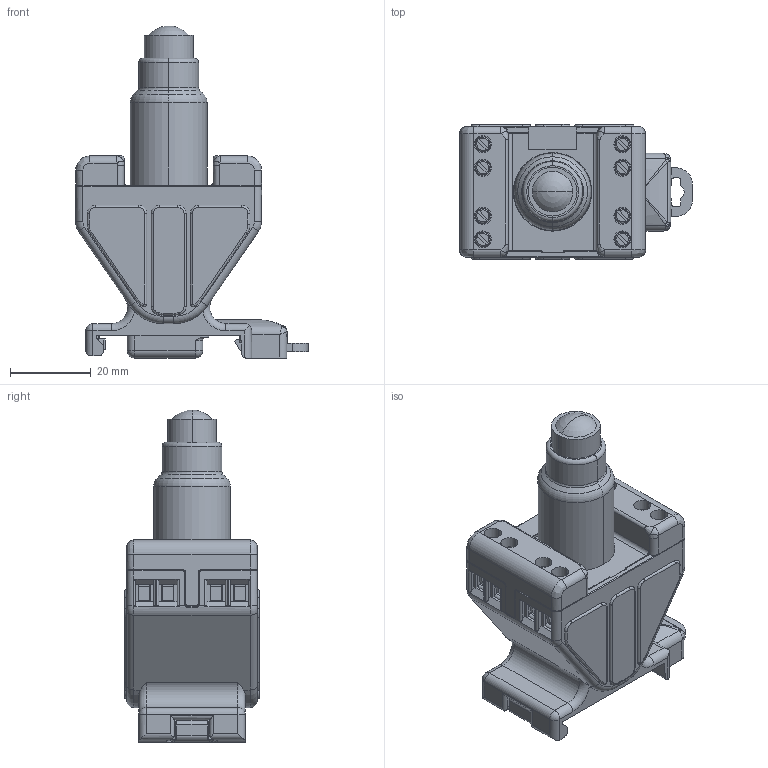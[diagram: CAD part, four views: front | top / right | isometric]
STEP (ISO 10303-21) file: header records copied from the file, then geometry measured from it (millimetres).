
FILE_DESCRIPTION((''),'2;1');
FILE_NAME('LEUCHTTASTER_STEP_SW0001','2009-01-19T',('beil'),(''),'PRO/ENGINEER BY PARAMETRIC TECHNOLOGY CORPORATION, 2007160','PRO/ENGINEER BY PARAMETRIC TECHNOLOGY CORPORATION, 2007160','');
FILE_SCHEMA(('CONFIG_CONTROL_DESIGN'));
Length unit declared in the file: millimetre
Products named in the file (1): LEUCHTTASTER_STEP_SW0001
Bounding box: 57.45 x 33.3 x 82 mm (x, y, z)
Volume: 51629.4 mm3; surface area: 27008.9 mm2
Topology: 1 solids, 1 shells, 2101 faces, 5660 edges, 3576 vertices
Faces by surface type: plane 1375, cylinder 504, torus 128, bspline 36, cone 34, sphere 24
Entity records: 67790 total; most frequent: CARTESIAN_POINT 14968, ORIENTED_EDGE 11300, DIRECTION 10595, EDGE_CURVE 5650, VECTOR 4083, LINE 4083, VERTEX_POINT 3576, AXIS2_PLACEMENT_3D 3256
